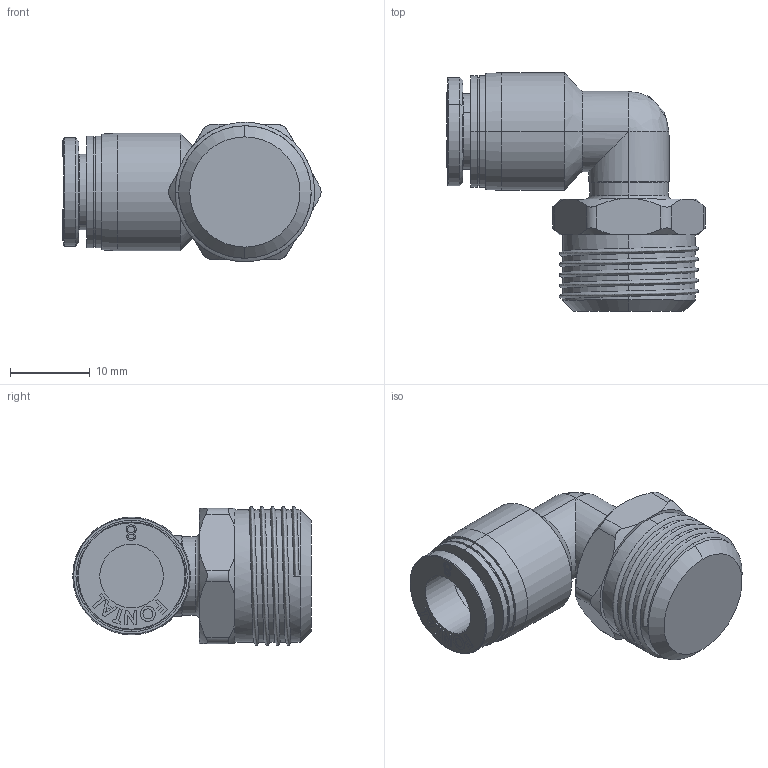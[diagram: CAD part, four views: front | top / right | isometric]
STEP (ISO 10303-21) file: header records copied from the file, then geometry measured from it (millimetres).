
FILE_DESCRIPTION (( 'STEP AP203' ), '1' );
FILE_NAME ('FPL8-03.STEP', '2016-01-14T21:03:38', ( '' ), ( '' ), 'SwSTEP 2.0', 'SolidWorks 2014', '' );
FILE_SCHEMA (( 'CONFIG_CONTROL_DESIGN' ));
Length unit declared in the file: millimetre
Products named in the file (4): FPL8-03; FPL8-01-A; FPC8-01-A; FPL8-03-B
Assembly tree (3 placements, depth 2):
  FPL8-03
    FPL8-01-A
    FPC8-01-A
    FPL8-03-B
Bounding box: 32.46 x 30 x 17.52 mm (x, y, z)
Volume: 5890.8 mm3; surface area: 3591.9 mm2
Topology: 3 solids, 3 shells, 175 faces, 433 edges, 280 vertices
Faces by surface type: plane 77, cylinder 40, bspline 30, cone 22, torus 6
Entity records: 8248 total; most frequent: CARTESIAN_POINT 3953, ORIENTED_EDGE 862, DIRECTION 702, EDGE_CURVE 431, VERTEX_POINT 280, AXIS2_PLACEMENT_3D 235, VECTOR 232, LINE 232
